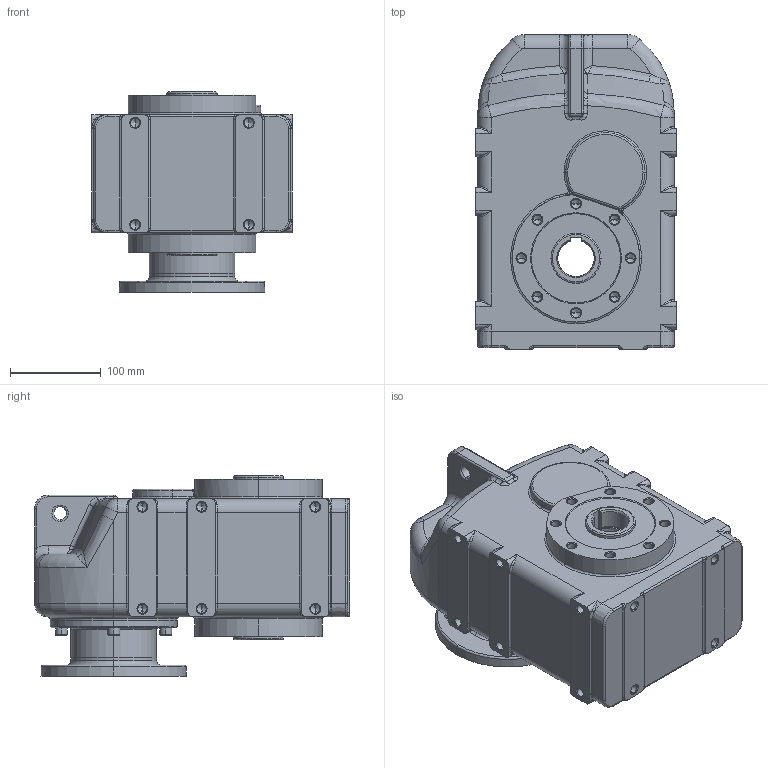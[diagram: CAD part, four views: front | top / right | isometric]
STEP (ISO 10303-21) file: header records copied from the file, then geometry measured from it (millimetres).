
FILE_DESCRIPTION (( 'STEP AP214' ), '1' );
FILE_NAME ('tnc33-f130-ap80.STEP', '2009-09-23T06:28:43', ( '' ), ( '' ), 'SwSTEP 2.0', 'SolidWorks 2003240', '' );
FILE_SCHEMA (( 'AUTOMOTIVE_DESIGN' ));
Length unit declared in the file: millimetre
Products named in the file (4): Priruba d80 MTC52A_110-130-160; Skøíò TNC3_Skøíò TNC33 AP80; tnc33-f130-ap80; N021143_Šroub s vnitøním šestihranem DIN 912 - M6 x 20
Assembly tree (8 placements, depth 2):
  tnc33-f130-ap80
    N021143_Šroub s vnitøním šestihranem DIN 912 - M6 x 20  x6
    Priruba d80 MTC52A_110-130-160
    Skøíò TNC3_Skøíò TNC33 AP80
Bounding box: 220 x 346 x 220 mm (x, y, z)
Volume: 9798746.4 mm3; surface area: 427044.6 mm2
Topology: 8 solids, 8 shells, 920 faces, 2090 edges, 1152 vertices
Faces by surface type: cylinder 281, cone 259, plane 171, torus 145, bspline 60, sphere 4
Entity records: 84254 total; most frequent: CARTESIAN_POINT 65734, DIRECTION 4001, ORIENTED_EDGE 3468, EDGE_CURVE 1734, AXIS2_PLACEMENT_3D 1664, VERTEX_POINT 1022, CIRCLE 923, EDGE_LOOP 888
